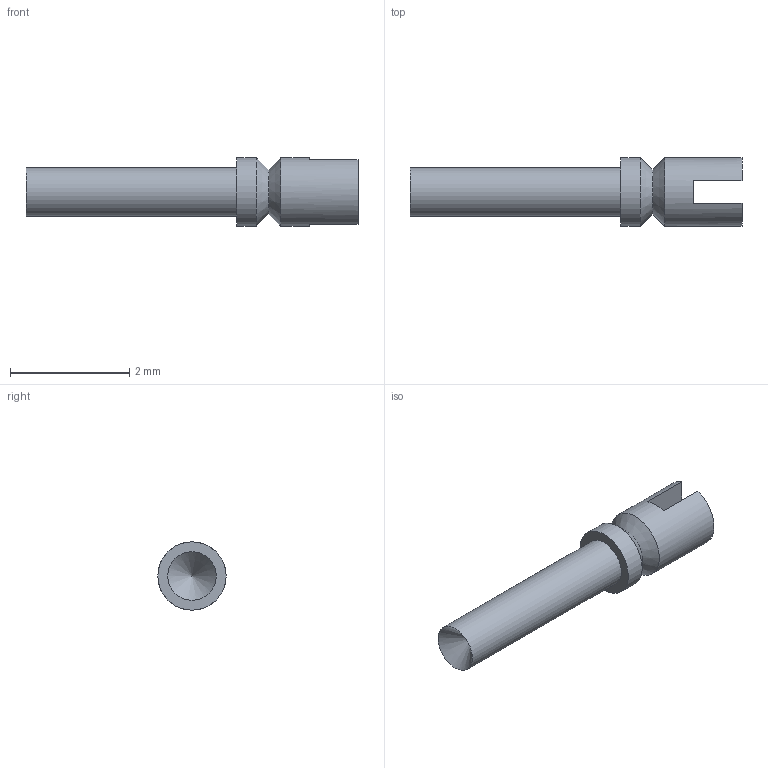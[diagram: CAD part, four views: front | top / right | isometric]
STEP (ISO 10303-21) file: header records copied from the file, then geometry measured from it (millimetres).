
FILE_DESCRIPTION(/* description */ (''),/* implementation_level */ '2;1');
FILE_NAME(/* name */ 'Z:\STEP folder\140-2187-04.ipt.stp',/* time_stamp */ '2016-12-07T10:40:38+00:00',/* author */ ('Paul Karlsons'),/* organization */ (''),/* preprocessor_version */ 'ST-DEVELOPER v15.2',/* originating_system */ 'Autodesk Inventor 2014',/* authorisation */ '');
FILE_SCHEMA (('AUTOMOTIVE_DESIGN { 1 0 10303 214 3 1 1 }'));
Length unit declared in the file: millimetre
Products named in the file (1): 140-2187-04
Bounding box: 5.56 x 1.14 x 1.14 mm (x, y, z)
Volume: 3.4 mm3; surface area: 19.9 mm2
Topology: 1 solids, 1 shells, 12 faces, 26 edges, 16 vertices
Faces by surface type: plane 6, cylinder 3, cone 3
Full cylindrical faces by diameter (mm): 0.812 x1, 1.143 x2
Entity records: 301 total; most frequent: DIRECTION 54, CARTESIAN_POINT 45, ORIENTED_EDGE 36, AXIS2_PLACEMENT_3D 23, EDGE_LOOP 18, EDGE_CURVE 18, VERTEX_POINT 14, FACE_OUTER_BOUND 12
